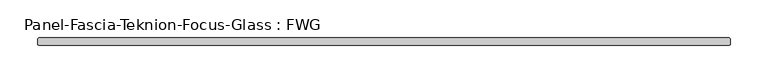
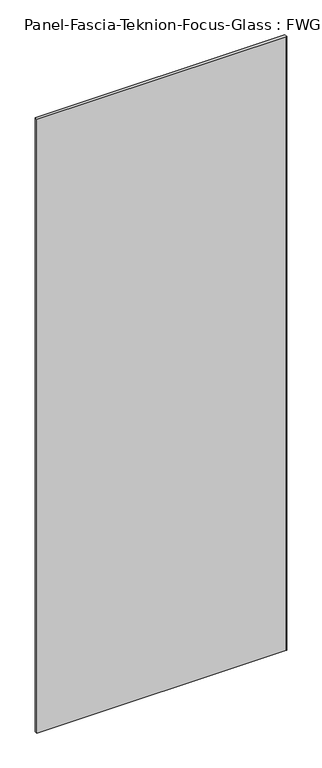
"""IFC4 building model written with IfcOpenShell, lengths in millimetres: proxy geometry, Panel-Fascia-Teknion-Focus-Glass : FWG."""

from ifc_helpers import new_model, si_unit, origin, origin_with_axes, place, context, project, spatial, polyline, outline, extrude, source, transform, mapped, element, save


def panel_fascia_teknion_focus_glass_fwg_2d823114(model_context):
    return source(origin(), model_context, "Body", "SweptSolid", [
        extrude(outline(polyline([(456.2, 5.0), (457.2, 4.0), (457.2, -4.0), (456.2, -5.0), (-456.2, -5.0), (-457.2, -4.0), (-457.2, 4.0), (-456.2, 5.0), (456.2, 5.0)])), origin_with_axes(), (0.0, 0.0, 1.0), 2371.400022),
    ])


if __name__ == "__main__":
    model = new_model("IFC4")
    model_context = context("Model", 3, world=origin())
    ifc_project = project(units=[si_unit("LENGTHUNIT", "METRE", prefix="MILLI")], contexts=[model_context])
    site = spatial("IfcSite", under=ifc_project)
    building = spatial("IfcBuilding", under=site)
    placement = place(None, origin())
    panel_fascia_teknion_focus_glass_fwg_shape = panel_fascia_teknion_focus_glass_fwg_2d823114(model_context)
    element("IfcBuildingElementProxy", 1, Name="Panel-Fascia-Teknion-Focus-Glass : FWG", ObjectType="Panel-Fascia-Teknion-Focus-Glass : FWG", at=placement, inside=building, context=model_context, shape_type="MappedRepresentation", body=[
        mapped(panel_fascia_teknion_focus_glass_fwg_shape, transform((0.0, 0.0, 0.0), x_axis=(1.0, 0.0, 0.0), y_axis=(0.0, 1.0, 0.0), z_axis=(0.0, 0.0, 1.0))),
    ])
    save(model, "model.ifc")
